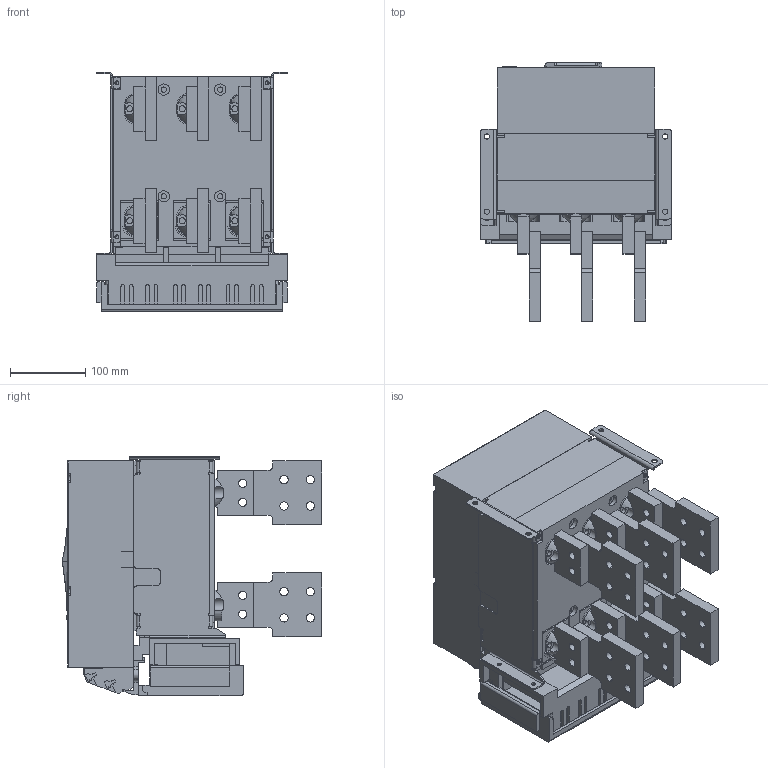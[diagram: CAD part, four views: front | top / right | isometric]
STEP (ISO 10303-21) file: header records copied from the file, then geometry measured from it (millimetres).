
FILE_DESCRIPTION((''),'2;1');
FILE_NAME('NA8G-1600-1600-F-3P-V_ASM','2019-05-31T10:14:24',('lcc'),(''),'CREO PARAMETRIC BY PTC INC, 2018020','CREO PARAMETRIC BY PTC INC, 2018020','');
FILE_SCHEMA(('CONFIG_CONTROL_DESIGN','SHAPE_APPEARANCE_LAYERS_GROUPS'));
Products named in the file (19): 1600-JIZUO-3P; 1600-DIBAN-3P; 8-050-245; 8-050-246; 8-300-166; 8-015-021; 8-300-162-2; 8ZTD-064-138; 8ZTD-024-689; 8ZTD-860-511; 1600-DUANZI-CTS_ASM; 8-253-348; 8-253-349; 8-253-309; 5-235-147; 8ZTD-580-199-3; 8-211-087; 8-580-204; NA8G-1600-1600-F-3P-V_ASM
Assembly tree (43 placements, depth 3):
  NA8G-1600-1600-F-3P-V_ASM
    1600-JIZUO-3P
    1600-DIBAN-3P
    8-050-245
    8-050-246
    8-300-166
    8-015-021
    8-300-162-2
    1600-DUANZI-CTS_ASM
      8ZTD-064-138
      8ZTD-024-689  x14
      8ZTD-860-511
    8-253-348
    8-253-349
    8-253-309
    5-235-147
    8ZTD-580-199-3  x6
    8-211-087  x3
    8-580-204  x6
Bounding box: 254 x 345 x 318.5 mm (x, y, z)
Volume: 7687762.1 mm3; surface area: 1569366.2 mm2
Topology: 42 solids, 53 shells, 5099 faces, 14250 edges, 9385 vertices
Faces by surface type: plane 4071, cylinder 953, bspline 34, torus 30, sphere 10, extrusion 1
Entity records: 119998 total; most frequent: CARTESIAN_POINT 17223, ORIENTED_EDGE 15790, DIRECTION 14997, PRESENTATION_STYLE_ASSIGNMENT 8429, STYLED_ITEM 8414, EDGE_CURVE 7898, CURVE_STYLE 7832, VECTOR 6469
